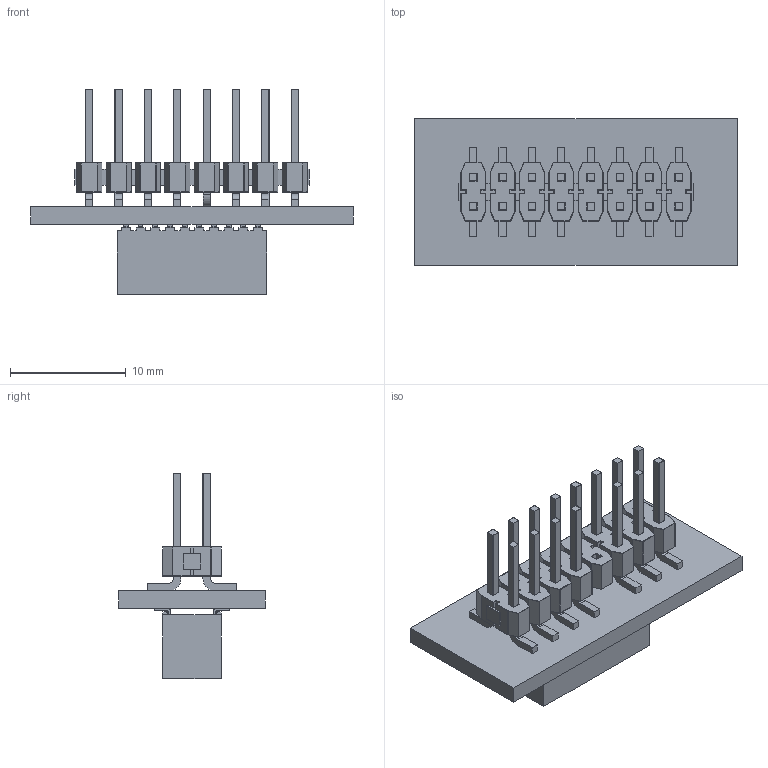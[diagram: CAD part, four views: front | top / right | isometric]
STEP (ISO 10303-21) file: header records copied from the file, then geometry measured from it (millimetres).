
FILE_DESCRIPTION(('Open CASCADE Model'),'2;1');
FILE_NAME('Open CASCADE Shape Model','2024-04-16T16:39:45',('Author'),( 'Open CASCADE'),'Open CASCADE STEP processor 7.5','Open CASCADE 7.5' ,'Unknown');
FILE_SCHEMA(('AUTOMOTIVE_DESIGN { 1 0 10303 214 1 1 1 1 }'));
Length unit declared in the file: millimetre
Products named in the file (13): PCB; Board; Open CASCADE STEP translator 7.5 3.1.1; J1; Conn_TSM-108-01-L-DV-008-P-TR_HDR15; TSM-104-01-DV-008_body; T-1S6-16(-01-4-DV008); Tail; Samtec; J2; RSM-110-02-L-D; RSM-110-02-L-D_1; RSM-110-02-L-D_2
Assembly tree (12 placements, depth 4):
  PCB
    Board
      Open CASCADE STEP translator 7.5 3.1.1
    J1
      Conn_TSM-108-01-L-DV-008-P-TR_HDR15
        TSM-104-01-DV-008_body
        T-1S6-16(-01-4-DV008)
        Tail
        Samtec
    J2
      RSM-110-02-L-D
        RSM-110-02-L-D_1
        RSM-110-02-L-D_2
Bounding box: 27.94 x 12.7 x 17.77 mm (x, y, z)
Volume: 1346.6 mm3; surface area: 2943.1 mm2
Topology: 18 solids, 18 shells, 2544 faces, 6250 edges, 3718 vertices
Faces by surface type: plane 1243, cylinder 933, sphere 324, bspline 44
Entity records: 76394 total; most frequent: CARTESIAN_POINT 13031, DIRECTION 12808, ORIENTED_EDGE 12492, EDGE_CURVE 6246, LINE 4578, VECTOR 4578, AXIS2_PLACEMENT_3D 4115, VERTEX_POINT 3718
